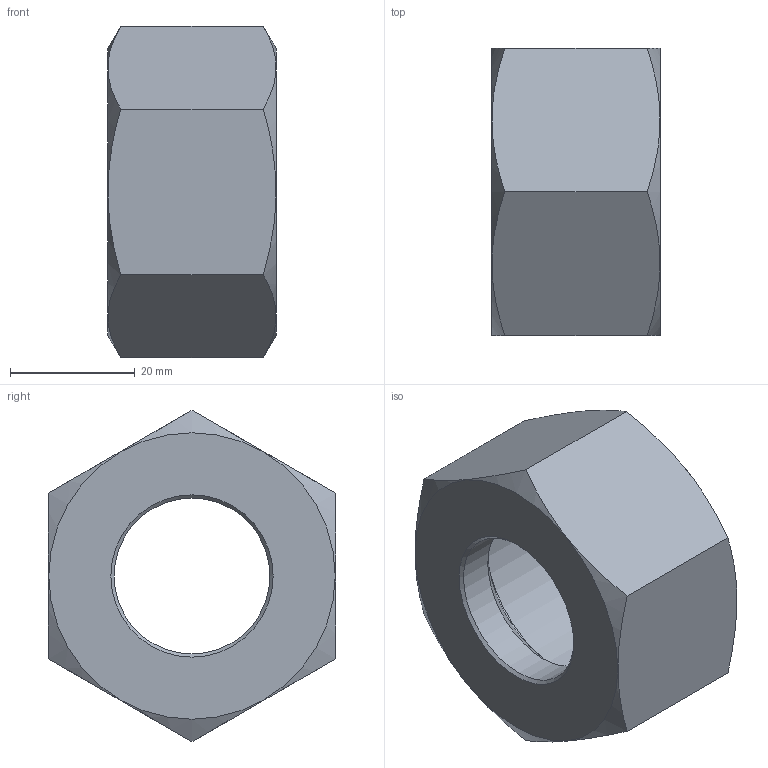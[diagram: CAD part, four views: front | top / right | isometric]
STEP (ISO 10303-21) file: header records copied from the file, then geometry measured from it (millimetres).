
FILE_DESCRIPTION( ( 'Unknown' ), '1' );
FILE_NAME( 'C:/Users/p.nanko/Desktop/3D SR/M25S.stp', 'Unknown', ( 'Peter Nanko' ), ( 'Armaturen Arndt' ), 'PSStep 14.0', 'Solid Edge ST4', ' ' );
FILE_SCHEMA( ( 'AUTOMOTIVE_DESIGN { 1 0 10303 214 1 1 1 1 }' ) );
Length unit declared in the file: millimetre
Products named in the file (1): 1
Bounding box: 27 x 46 x 53.12 mm (x, y, z)
Volume: 27949 mm3; surface area: 9256 mm2
Topology: 1 solids, 1 shells, 17 faces, 39 edges, 25 vertices
Faces by surface type: plane 9, cone 5, cylinder 3
Full cylindrical faces by diameter (mm): 25 x1, 33.835 x2
Entity records: 700 total; most frequent: CARTESIAN_POINT 224, DIRECTION 62, ORIENTED_EDGE 56, AXIS2_PLACEMENT_3D 28, EDGE_LOOP 28, EDGE_CURVE 28, VERTEX_POINT 22, FACE_OUTER_BOUND 20
